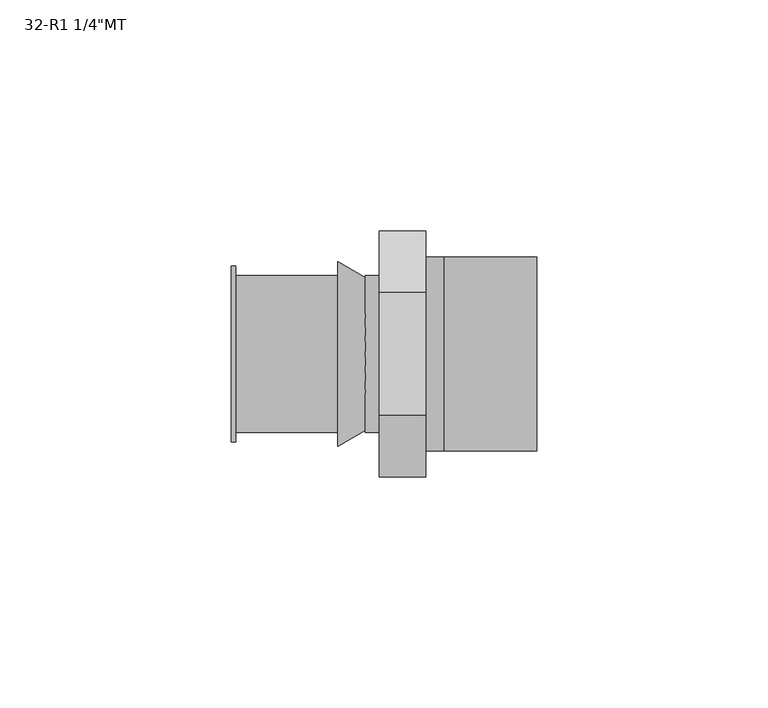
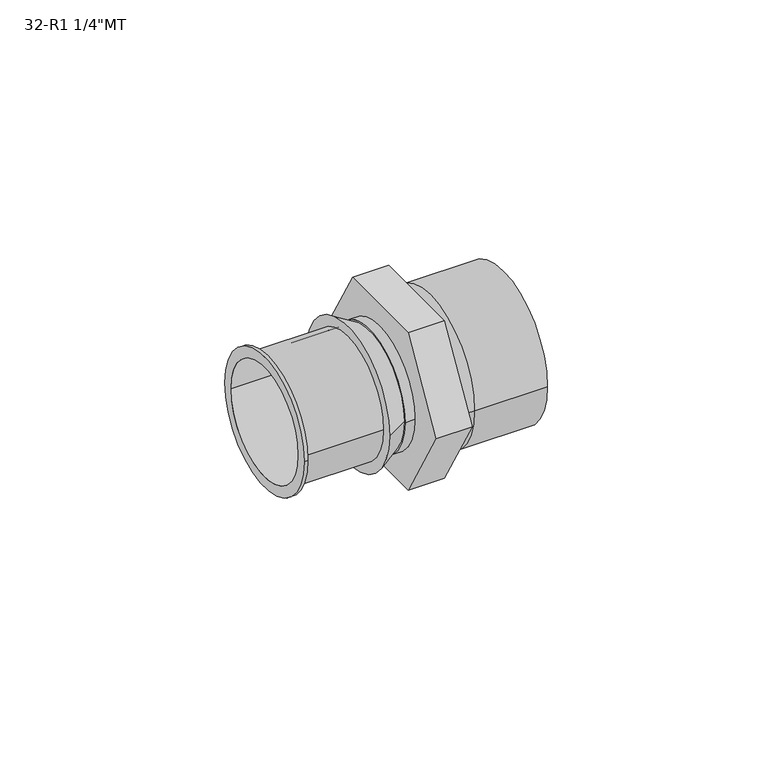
"""IFC4 building model written with IfcOpenShell, lengths in millimetres: pipe fitting geometry."""

from ifc_helpers import new_model, si_unit, point, frame, origin, origin_2d, place, context, project, spatial, polyline, circle_curve, trimmed, segment, composite_curve, outline, extrude, source, transform, mapped, element, save
from ifc_brep_helpers import plane_surface, cylinder_surface, revolved_surface, advanced_brep


def pipe_fitting_bb159481(model_context):
    return source(origin(), model_context, "Body", "SolidModel", [
        advanced_brep(
        [(-5.0, -26.5581124, 0.0), (-5.0, -13.2790562, 23.0), (-5.0, 13.2790562, 23.0), (-5.0, 26.5581124, 0.0), (-5.0, 13.2790562, -23.0), (-5.0, -13.2790562, -23.0), (5.0, -26.5581124, 0.0), (5.0, -13.2790562, -23.0), (5.0, 13.2790562, -23.0), (5.0, 26.5581124, 0.0), (5.0, 13.2790562, 23.0), (5.0, -13.2790562, 23.0), (5.0, -21.0, 0.0), (5.0, 21.0, 0.0), (29.0, -21.0, 0.0), (29.0, 21.0, 0.0), (29.0, -17.0, 0.0), (29.0, 17.0, 0.0), (9.0, 21.0, 0.0), (9.0, -21.0, 0.0), (9.0, 17.0, 0.0), (9.0, -17.0, 0.0)],
        [
            (0, 1),
            (1, 2),
            (2, 3),
            (3, 4),
            (4, 5),
            (5, 0),
            (6, 7),
            (7, 8),
            (8, 9),
            (9, 10),
            (10, 11),
            (11, 6),
            (12, 13, circle_curve(frame((5.0, 0.0, 0.0), z_axis=(-1.0, 0.0, 0.0), x_axis=(0.0, 1.0, 0.0)), 21.0)),
            (13, 12, circle_curve(frame((5.0, 0.0, 0.0), z_axis=(-1.0, 0.0, 0.0), x_axis=(0.0, 1.0, 0.0)), 21.0)),
            (0, 6),
            (11, 1),
            (10, 2),
            (9, 3),
            (8, 4),
            (7, 5),
            (14, 15, circle_curve(frame((29.0, 0.0, 0.0), z_axis=(1.0, 0.0, 0.0), x_axis=(0.0, 1.0, 0.0)), 21.0)),
            (15, 14, circle_curve(frame((29.0, 0.0, 0.0), z_axis=(1.0, 0.0, 0.0), x_axis=(0.0, 1.0, 0.0)), 21.0)),
            (16, 17, circle_curve(frame((29.0, 0.0, 0.0), z_axis=(-1.0, 0.0, 0.0), x_axis=(0.0, 1.0, 0.0)), 17.0)),
            (17, 16, circle_curve(frame((29.0, 0.0, 0.0), z_axis=(-1.0, 0.0, 0.0), x_axis=(0.0, 1.0, 0.0)), 17.0)),
            (15, 18),
            (18, 19, circle_curve(frame((9.0, 0.0, 0.0), z_axis=(1.0, 0.0, 0.0), x_axis=(0.0, 1.0, 0.0)), 21.0)),
            (19, 14),
            (19, 18, circle_curve(frame((9.0, 0.0, 0.0), z_axis=(1.0, 0.0, 0.0), x_axis=(0.0, 1.0, 0.0)), 21.0)),
            (17, 20),
            (20, 21, circle_curve(frame((9.0, 0.0, 0.0), z_axis=(-1.0, 0.0, 0.0), x_axis=(0.0, 1.0, 0.0)), 17.0)),
            (21, 16),
            (21, 20, circle_curve(frame((9.0, 0.0, 0.0), z_axis=(-1.0, 0.0, 0.0), x_axis=(0.0, 1.0, 0.0)), 17.0)),
            (12, 19),
            (18, 13),
        ],
        [
            plane_surface(frame((-5.0, 0.0, 0.0), z_axis=(-1.0, 0.0, 0.0), x_axis=(0.0, 0.0, 1.0))),
            plane_surface(frame((5.0, 0.0, 0.0), z_axis=(1.0, 0.0, 0.0), x_axis=(0.0, 0.0, 1.0))),
            plane_surface(frame((-5.0, -26.5581124, 0.0), z_axis=(0.0, -0.8660254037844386, 0.5000000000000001), x_axis=(1.0, 0.0, 0.0))),
            plane_surface(frame((-5.0, -13.2790562, 23.0), z_axis=(0.0, 0.0, 1.0), x_axis=(1.0, 0.0, 0.0))),
            plane_surface(frame((-5.0, 13.2790562, 23.0), z_axis=(0.0, 0.8660254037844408, 0.4999999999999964), x_axis=(1.0, 0.0, 0.0))),
            plane_surface(frame((-5.0, 26.5581124, 0.0), z_axis=(0.0, 0.8660254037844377, -0.5000000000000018), x_axis=(1.0, 0.0, 0.0))),
            plane_surface(frame((-5.0, 13.2790562, -23.0), z_axis=(0.0, 0.0, -1.0), x_axis=(1.0, 0.0, 0.0))),
            plane_surface(frame((-5.0, -13.2790562, -23.0), z_axis=(0.0, -0.8660254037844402, -0.4999999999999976), x_axis=(1.0, 0.0, 0.0))),
            plane_surface(frame((29.0, 0.0, 0.0), z_axis=(1.0, 0.0, 0.0), x_axis=(0.0, 0.0, 1.0))),
            cylinder_surface(frame((9.0, 0.0, 0.0), z_axis=(-1.0, 0.0, 0.0), x_axis=(0.0, 1.0, 0.0)), 21.0),
            revolved_surface(polyline([(29.0, 17.0, 0.0), (9.0, 17.0, 0.0)]), (9.0, 0.0, 0.0), (1.0, 0.0, 0.0)),
            plane_surface(frame((9.0, 0.0, 0.0), z_axis=(1.0, 0.0, 0.0), x_axis=(0.0, 0.0, 1.0))),
            cylinder_surface(frame((0.0, 0.0, 0.0), z_axis=(-1.0, 0.0, 0.0), x_axis=(0.0, 1.0, 0.0)), 21.0),
        ],
        [
            (0, [[1, 2, 3, 4, 5, 6]]),
            (1, [[7, 8, 9, 10, 11, 12], [13, 14]]),
            (2, [[-1, 15, -12, 16]]),
            (3, [[-2, -16, -11, 17]]),
            (4, [[-3, -17, -10, 18]]),
            (5, [[-4, -18, -9, 19]]),
            (6, [[-5, -19, -8, 20]]),
            (7, [[-6, -20, -7, -15]]),
            (8, [[21, 22], [23, 24]]),
            (9, [[-22, 25, 26, 27]]),
            (9, [[-21, -27, 28, -25]]),
            (10, [[-24, 29, 30, 31]]),
            (10, [[-23, -31, 32, -29]]),
            (11, [[-30, -32]]),
            (12, [[33, -26, 34, -13]]),
            (12, [[-33, -14, -34, -28]]),
        ],
    ),
        advanced_brep(
        [(-37.0, -19.0, 0.0), (-37.0, 19.0, 0.0), (-37.0, -16.0, 0.0), (-37.0, 16.0, 0.0), (-14.0, -17.0, 0.0), (-14.0, 17.0, 0.0), (-14.0, -16.0, 0.0), (-14.0, 16.0, 0.0), (-36.0, 17.0, 0.0), (-36.0, -17.0, 0.0), (-36.0, -19.0, 0.0), (-36.0, 19.0, 0.0)],
        [
            (0, 1, circle_curve(frame((-37.0, 0.0, 0.0), z_axis=(-1.0, 0.0, 0.0), x_axis=(0.0, 1.0, 0.0)), 19.0)),
            (1, 0, circle_curve(frame((-37.0, 0.0, 0.0), z_axis=(-1.0, 0.0, 0.0), x_axis=(0.0, 1.0, 0.0)), 19.0)),
            (2, 3, circle_curve(frame((-37.0, 0.0, 0.0), z_axis=(1.0, 0.0, 0.0), x_axis=(0.0, 1.0, 0.0)), 16.0)),
            (3, 2, circle_curve(frame((-37.0, 0.0, 0.0), z_axis=(1.0, 0.0, 0.0), x_axis=(0.0, 1.0, 0.0)), 16.0)),
            (4, 5, circle_curve(frame((-14.0, 0.0, 0.0), z_axis=(1.0, 0.0, 0.0), x_axis=(0.0, 1.0, 0.0)), 17.0)),
            (5, 4, circle_curve(frame((-14.0, 0.0, 0.0), z_axis=(1.0, 0.0, 0.0), x_axis=(0.0, 1.0, 0.0)), 17.0)),
            (6, 7, circle_curve(frame((-14.0, 0.0, 0.0), z_axis=(-1.0, 0.0, 0.0), x_axis=(0.0, 1.0, 0.0)), 16.0)),
            (7, 6, circle_curve(frame((-14.0, 0.0, 0.0), z_axis=(-1.0, 0.0, 0.0), x_axis=(0.0, 1.0, 0.0)), 16.0)),
            (2, 6),
            (7, 3),
            (5, 8),
            (8, 9, circle_curve(frame((-36.0, 0.0, 0.0), z_axis=(1.0, 0.0, 0.0), x_axis=(0.0, 1.0, 0.0)), 17.0)),
            (9, 4),
            (9, 8, circle_curve(frame((-36.0, 0.0, 0.0), z_axis=(1.0, 0.0, 0.0), x_axis=(0.0, 1.0, 0.0)), 17.0)),
            (10, 11, circle_curve(frame((-36.0, 0.0, 0.0), z_axis=(1.0, 0.0, 0.0), x_axis=(0.0, 1.0, 0.0)), 19.0)),
            (11, 10, circle_curve(frame((-36.0, 0.0, 0.0), z_axis=(1.0, 0.0, 0.0), x_axis=(0.0, 1.0, 0.0)), 19.0)),
            (0, 10),
            (11, 1),
        ],
        [
            plane_surface(frame((-37.0, 0.0, 0.0), z_axis=(-1.0, 0.0, 0.0), x_axis=(0.0, 0.0, 1.0))),
            plane_surface(frame((-14.0, 0.0, 0.0), z_axis=(1.0, 0.0, 0.0), x_axis=(0.0, 0.0, 1.0))),
            revolved_surface(polyline([(-14.0, 16.0, 0.0), (-37.0, 16.0, 0.0)]), (-37.0, 0.0, 0.0), (1.0, 0.0, 0.0)),
            cylinder_surface(frame((-37.0, 0.0, 0.0), z_axis=(-1.0, 0.0, 0.0), x_axis=(0.0, 1.0, 0.0)), 17.0),
            plane_surface(frame((-36.0, 0.0, 0.0), z_axis=(1.0, 0.0, 0.0), x_axis=(0.0, 0.0, 1.0))),
            cylinder_surface(frame((-37.0, 0.0, 0.0), z_axis=(-1.0, 0.0, 0.0), x_axis=(0.0, 1.0, 0.0)), 19.0),
        ],
        [
            (0, [[1, 2], [3, 4]]),
            (1, [[5, 6], [7, 8]]),
            (2, [[-3, 9, -8, 10]]),
            (2, [[-4, -10, -7, -9]]),
            (3, [[-6, 11, 12, 13]]),
            (3, [[-5, -13, 14, -11]]),
            (4, [[15, 16], [-12, -14]]),
            (5, [[-1, 17, -16, 18]]),
            (5, [[-2, -18, -15, -17]]),
        ],
    ),
        advanced_brep(
        [(-8.0, -16.5, 0.0), (-8.0, 16.5, 0.0), (-8.0, 16.0, 0.0), (-8.0, -16.0, 0.0), (-14.0, -20.0, 0.0), (-14.0, 20.0, 0.0), (-14.0, -16.0, 0.0), (-14.0, 16.0, 0.0)],
        [
            (0, 1, circle_curve(frame((-8.0, 0.0, 0.0), z_axis=(1.0, 0.0, 0.0), x_axis=(0.0, -1.0, 0.0)), 16.5)),
            (1, 0, circle_curve(frame((-8.0, 0.0, 0.0), z_axis=(1.0, 0.0, 0.0), x_axis=(0.0, 1.0, 0.0)), 16.5)),
            (2, 3, circle_curve(frame((-8.0, 0.0, 0.0), z_axis=(-1.0, 0.0, 0.0), x_axis=(0.0, 1.0, 0.0)), 16.0)),
            (3, 2, circle_curve(frame((-8.0, 0.0, 0.0), z_axis=(-1.0, 0.0, 0.0), x_axis=(0.0, 1.0, 0.0)), 16.0)),
            (4, 5, circle_curve(frame((-14.0, 0.0, 0.0), z_axis=(-1.0, 0.0, 0.0), x_axis=(0.0, 1.0, 0.0)), 20.0)),
            (5, 4, circle_curve(frame((-14.0, 0.0, 0.0), z_axis=(-1.0, 0.0, 0.0), x_axis=(0.0, -1.0, 0.0)), 20.0)),
            (6, 7, circle_curve(frame((-14.0, 0.0, 0.0), z_axis=(1.0, 0.0, 0.0), x_axis=(0.0, 1.0, 0.0)), 16.0)),
            (7, 6, circle_curve(frame((-14.0, 0.0, 0.0), z_axis=(1.0, 0.0, 0.0), x_axis=(0.0, 1.0, 0.0)), 16.0)),
            (0, 4),
            (5, 1),
            (2, 7),
            (6, 3),
        ],
        [
            plane_surface(frame((-8.0, 0.0, 0.0), z_axis=(1.0, 0.0, 0.0), x_axis=(0.0, 0.0, -1.0))),
            plane_surface(frame((-14.0, 0.0, 0.0), z_axis=(-1.0, 0.0, 0.0), x_axis=(0.0, 0.0, -1.0))),
            revolved_surface(polyline([(-8.0, -16.500000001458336, 0.0), (-13.999999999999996, -20.0, 0.0)]), (20.2857143, 0.0, 0.0), (-1.0, 0.0, 0.0)),
            revolved_surface(polyline([(-8.0, 16.500000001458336, 0.0), (-13.999999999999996, 20.0, 0.0)]), (20.2857143, 0.0, 0.0), (-1.0, 0.0, 0.0)),
            revolved_surface(polyline([(-8.0, 16.0, 0.0), (-14.0, 16.0, 0.0)]), (-14.0, 0.0, 0.0), (1.0, 0.0, 0.0)),
        ],
        [
            (0, [[1, 2], [3, 4]]),
            (1, [[5, 6], [7, 8]]),
            (2, [[-1, 9, -6, 10]]),
            (3, [[-2, -10, -5, -9]]),
            (4, [[11, -7, 12, -3]]),
            (4, [[-11, -4, -12, -8]]),
        ],
    ),
        extrude(outline(composite_curve([segment(trimmed(circle_curve(origin_2d(), 17.0), [point((-17.0, 0.0))], [point((17.0, 0.0))], False, "CARTESIAN"), True, "CONTINUOUS"), segment(trimmed(circle_curve(origin_2d(), 17.0), [point((17.0, 0.0))], [point((-17.0, 0.0))], False, "CARTESIAN"), True, "CONTINUOUS")], self_intersect=False)), frame((-8.0, 0.0, 0.0), z_axis=(1.0, 0.0, 0.0), x_axis=(0.0, 1.0, 0.0)), (0.0, 0.0, 1.0), 3.0),
    ])


if __name__ == "__main__":
    model = new_model("IFC4")
    model_context = context("Model", 3, world=origin())
    ifc_project = project(units=[si_unit("LENGTHUNIT", "METRE", prefix="MILLI")], contexts=[model_context])
    site = spatial("IfcSite", under=ifc_project)
    building = spatial("IfcBuilding", under=site)
    placement = place(None, origin())
    pipe_fitting_shape = pipe_fitting_bb159481(model_context)
    element("IfcPipeFitting", 1, ObjectType="SuperPipe_AdapterMT : 32-R1 1/4\"MT", at=placement, inside=building, context=model_context, shape_type="MappedRepresentation", body=[
        mapped(pipe_fitting_shape, transform((0.0, 0.0, 0.0), x_axis=(1.0, 0.0, 0.0), y_axis=(0.0, 1.0, 0.0), z_axis=(0.0, 0.0, 1.0))),
    ])
    save(model, "model.ifc")
